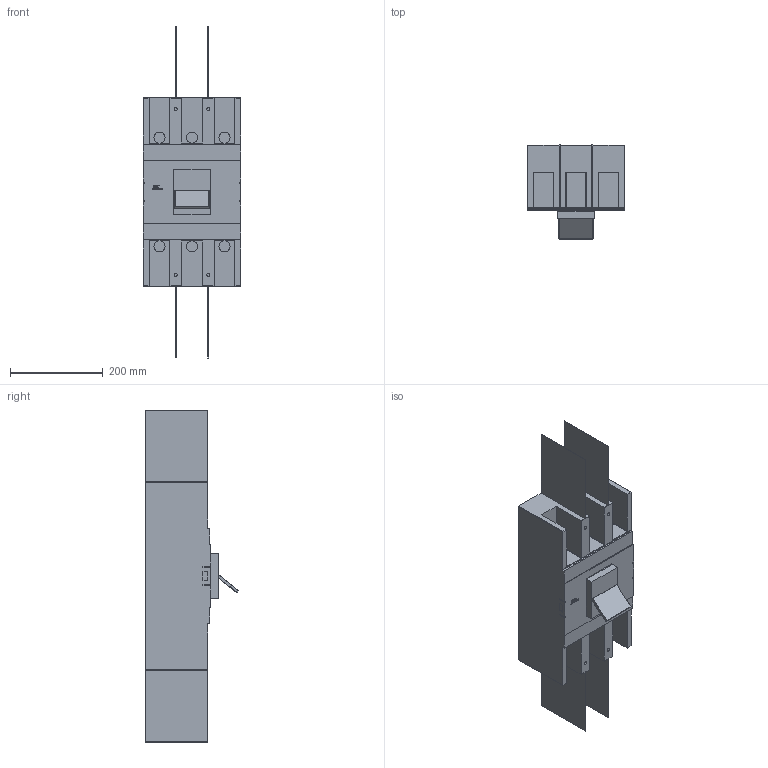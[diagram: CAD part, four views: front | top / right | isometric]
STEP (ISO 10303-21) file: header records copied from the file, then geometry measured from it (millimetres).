
FILE_DESCRIPTION(/* description */ ('','CAx-IF Rec.Pracs.---Representation and Presentation of Product Manufacturing Information (PMI)---3.8---2014-02-18'),/* implementation_level */ '2;1');
FILE_NAME(/* name */ 'C:\Users\ILYA\Desktop\NM1\Авт. выкл. NM1-1250H3Р 800A 65кА (CHINT)\Авт. выкл. NM1-1250H3Р 800A 65кА (CHINT).stp',/* time_stamp */ '2017-08-19T08:28:45+03:00',/* author */ ('ILYA'),/* organization */ (''),/* preprocessor_version */ 'ST-DEVELOPER v16.1',/* originating_system */ 'Autodesk Inventor 2016',/* authorisation */ '');
FILE_SCHEMA (('AP242_MANAGED_MODEL_BASED_3D_ENGINEERING_MIM_LF { 1 0 10303 442 1 1 4 }'));
Length unit declared in the file: millimetre
Products named in the file (1): Авт. выкл. NM1-12
50H3Р 800A 65кА (CHINT)
Bounding box: 210 x 201.79 x 715 mm (x, y, z)
Volume: 9989978.8 mm3; surface area: 616341.7 mm2
Topology: 1 solids, 1 shells, 353 faces, 944 edges, 622 vertices
Faces by surface type: plane 241, bspline 54, cylinder 50, torus 4, sphere 4
Full cylindrical faces by diameter (mm): 7 x4, 24 x6
Entity records: 11391 total; most frequent: CARTESIAN_POINT 2794, ORIENTED_EDGE 1868, DIRECTION 1524, EDGE_CURVE 934, LINE 720, VECTOR 720, VERTEX_POINT 622, AXIS2_PLACEMENT_3D 402
